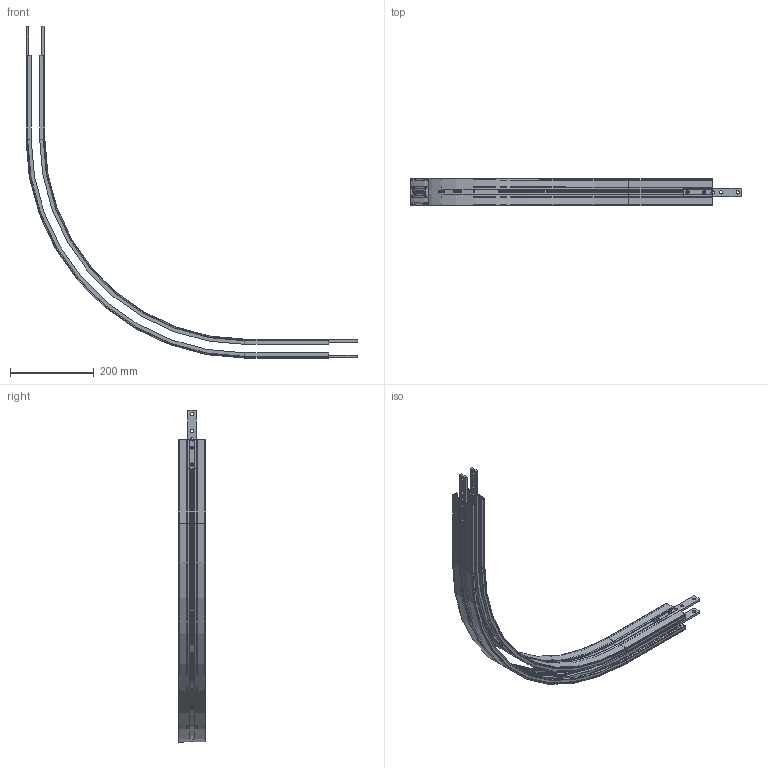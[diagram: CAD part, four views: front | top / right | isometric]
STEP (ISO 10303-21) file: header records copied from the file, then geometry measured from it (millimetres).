
FILE_DESCRIPTION (( 'STEP AP214' ), '1' );
FILE_NAME ('FKHB-90R500.STEP', '2012-03-20T14:21:50', ( 'gs' ), ( 'Microsoft' ), 'SwSTEP 2.0', 'SolidWorks 2011', '' );
FILE_SCHEMA (( 'AUTOMOTIVE_DESIGN' ));
Length unit declared in the file: millimetre
Products named in the file (3): FACS-20; FKHB-R500_Défaut<Brut d''usinage>; FKHB-90R500
Assembly tree (5 placements, depth 2):
  FKHB-90R500
    FACS-20  x4
    FKHB-R500_Défaut<Brut d''usinage>
Bounding box: 792.5 x 65.4 x 792.5 mm (x, y, z)
Volume: 797513.2 mm3; surface area: 783679.7 mm2
Topology: 22 solids, 22 shells, 440 faces, 1188 edges, 792 vertices
Faces by surface type: plane 316, cylinder 104, cone 20
Entity records: 13565 total; most frequent: CARTESIAN_POINT 2098, ORIENTED_EDGE 2052, DIRECTION 1938, EDGE_CURVE 1026, VECTOR 890, LINE 890, VERTEX_POINT 684, AXIS2_PLACEMENT_3D 524
